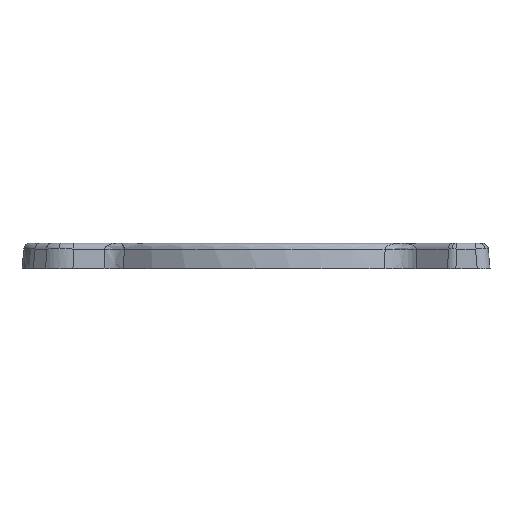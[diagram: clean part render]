
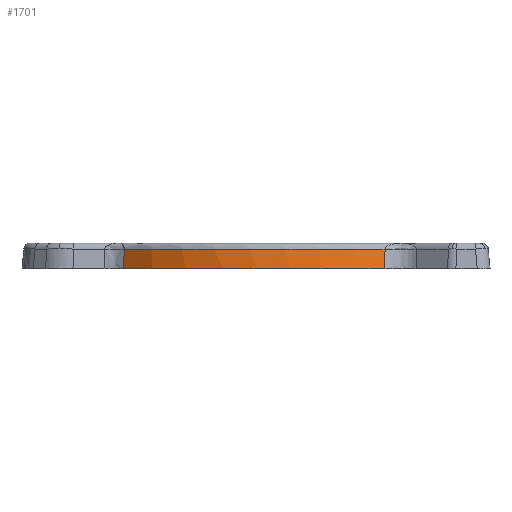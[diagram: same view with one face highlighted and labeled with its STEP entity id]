
A CAD part, front view. The second image highlights one B-rep face of the part: STEP entity #1701.
In plain terms, the highlighted conical face has half-angle 5.002 degrees and reference radius 8.773 mm.
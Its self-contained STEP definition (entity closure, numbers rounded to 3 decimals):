
#50 = CARTESIAN_POINT ( 'NONE',  ( 3.394, -7.761, 0. ) ) ;
#219 = CARTESIAN_POINT ( 'NONE',  ( -6.741, -6.264, 0.772 ) ) ;
#299 = CARTESIAN_POINT ( 'NONE',  ( -0.696, 0., 0.772 ) ) ;
#428 = VERTEX_POINT ( 'NONE', #603 ) ;
#488 = EDGE_LOOP ( 'NONE', ( #1564, #3067, #2170, #2120 ) ) ;
#538 = EDGE_CURVE ( 'NONE', #2281, #1796, #1770, .T. ) ;
#549 = DIRECTION ( 'NONE',  ( 0., 1., 0. ) ) ;
#558 = CARTESIAN_POINT ( 'NONE',  ( 3.395, -7.734, 0.257 ) ) ;
#593 = CARTESIAN_POINT ( 'NONE',  ( -0.077, -9.59, 0. ) ) ;
#603 = CARTESIAN_POINT ( 'NONE',  ( 3.398, -7.682, 0.772 ) ) ;
#1265 = CARTESIAN_POINT ( 'NONE',  ( 3.396, -7.708, 0.515 ) ) ;
#1302 = B_SPLINE_CURVE_WITH_KNOTS ( 'NONE', 3,
 ( #2567, #558, #1265, #2970 ),
 .UNSPECIFIED., .F., .F.,
 ( 4, 4 ),
 ( 0., 0.001 ),
 .UNSPECIFIED. ) ;
#1324 =( BOUNDED_CURVE ( )  B_SPLINE_CURVE ( 3, ( #2972, #2990, #593, #2275 ),
 .UNSPECIFIED., .F., .T. ) 
 B_SPLINE_CURVE_WITH_KNOTS ( ( 4, 4 ),
 ( 0.038, 0.936 ),
 .UNSPECIFIED. ) 
 CURVE ( )  GEOMETRIC_REPRESENTATION_ITEM ( )  RATIONAL_B_SPLINE_CURVE ( ( 0.983, 0.856, 0.853, 0.973 ) ) 
 REPRESENTATION_ITEM ( '' )  );
#1439 = EDGE_CURVE ( 'NONE', #2436, #428, #1302, .T. ) ;
#1564 = ORIENTED_EDGE ( 'NONE', *, *, #2831, .T. ) ;
#1584 = DIRECTION ( 'NONE',  ( 0., 1., 0. ) ) ;
#1653 = CARTESIAN_POINT ( 'NONE',  ( -6.751, -6.286, 0.515 ) ) ;
#1701 = ADVANCED_FACE ( 'NONE', ( #1846 ), #2251, .T. ) ;
#1770 = B_SPLINE_CURVE_WITH_KNOTS ( 'NONE', 3,
 ( #219, #1653, #3113, #1912 ),
 .UNSPECIFIED., .F., .F.,
 ( 4, 4 ),
 ( 0., 0.001 ),
 .UNSPECIFIED. ) ;
#1796 = VERTEX_POINT ( 'NONE', #2510 ) ;
#1846 = FACE_OUTER_BOUND ( 'NONE', #488, .T. ) ;
#1897 = CIRCLE ( 'NONE', #2313, 8.705 ) ;
#1908 = CARTESIAN_POINT ( 'NONE',  ( -6.741, -6.264, 0.772 ) ) ;
#1912 = CARTESIAN_POINT ( 'NONE',  ( -6.771, -6.329, 0. ) ) ;
#1983 = DIRECTION ( 'NONE',  ( 0., 0., -1. ) ) ;
#2014 = AXIS2_PLACEMENT_3D ( 'NONE', #2332, #2585, #1584 ) ;
#2063 = EDGE_CURVE ( 'NONE', #428, #2281, #1897, .T. ) ;
#2120 = ORIENTED_EDGE ( 'NONE', *, *, #538, .T. ) ;
#2170 = ORIENTED_EDGE ( 'NONE', *, *, #2063, .T. ) ;
#2251 = CONICAL_SURFACE ( 'NONE', #2014, 8.772, 0.087 ) ;
#2275 = CARTESIAN_POINT ( 'NONE',  ( 3.394, -7.761, 0. ) ) ;
#2281 = VERTEX_POINT ( 'NONE', #1908 ) ;
#2313 = AXIS2_PLACEMENT_3D ( 'NONE', #299, #1983, #549 ) ;
#2332 = CARTESIAN_POINT ( 'NONE',  ( -0.696, 0., 0. ) ) ;
#2436 = VERTEX_POINT ( 'NONE', #50 ) ;
#2510 = CARTESIAN_POINT ( 'NONE',  ( -6.771, -6.329, 0. ) ) ;
#2567 = CARTESIAN_POINT ( 'NONE',  ( 3.394, -7.761, 0. ) ) ;
#2585 = DIRECTION ( 'NONE',  ( 0., 0., -1. ) ) ;
#2831 = EDGE_CURVE ( 'NONE', #1796, #2436, #1324, .T. ) ;
#2970 = CARTESIAN_POINT ( 'NONE',  ( 3.398, -7.682, 0.772 ) ) ;
#2972 = CARTESIAN_POINT ( 'NONE',  ( -6.771, -6.329, 0. ) ) ;
#2990 = CARTESIAN_POINT ( 'NONE',  ( -3.952, -9.034, 0. ) ) ;
#3067 = ORIENTED_EDGE ( 'NONE', *, *, #1439, .T. ) ;
#3113 = CARTESIAN_POINT ( 'NONE',  ( -6.761, -6.307, 0.257 ) ) ;
